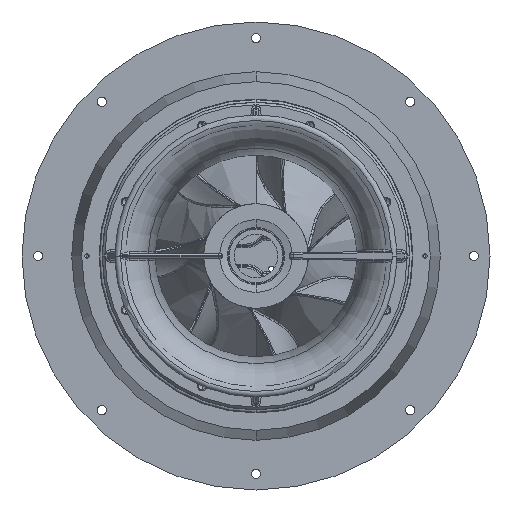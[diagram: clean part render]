
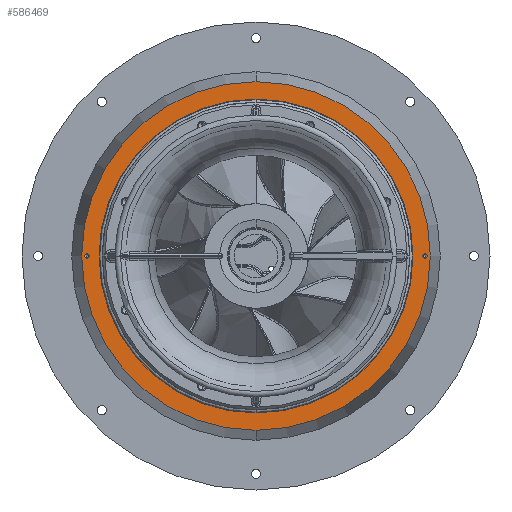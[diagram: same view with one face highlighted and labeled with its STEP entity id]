
A CAD part, front view. The second image highlights one B-rep face of the part: STEP entity #586469.
In plain terms, the highlighted planar face has unit normal (0, -1, 0).
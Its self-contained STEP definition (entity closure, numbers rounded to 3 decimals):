
#4207 = ORIENTED_EDGE ( 'NONE', *, *, #364278, .F. ) ;
#10617 = VERTEX_POINT ( 'NONE', #159507 ) ;
#12098 = DIRECTION ( 'NONE',  ( 0., 0., -1. ) ) ;
#13412 = DIRECTION ( 'NONE',  ( 0., -1., 0. ) ) ;
#22940 = DIRECTION ( 'NONE',  ( 0., -1., 0. ) ) ;
#28683 = CARTESIAN_POINT ( 'NONE',  ( 0., -608.968, 0. ) ) ;
#36605 = EDGE_CURVE ( 'NONE', #10617, #354514, #103955, .T. ) ;
#43326 = DIRECTION ( 'NONE',  ( 0., -1., 0. ) ) ;
#44581 = CIRCLE ( 'NONE', #398555, 4.25 ) ;
#70244 = FACE_OUTER_BOUND ( 'NONE', #85524, .T. ) ;
#77613 = ORIENTED_EDGE ( 'NONE', *, *, #297839, .F. ) ;
#85524 = EDGE_LOOP ( 'NONE', ( #322835, #241527 ) ) ;
#103955 = CIRCLE ( 'NONE', #552230, 340. ) ;
#109578 = VERTEX_POINT ( 'NONE', #313102 ) ;
#117195 = CIRCLE ( 'NONE', #544464, 305. ) ;
#117275 = VERTEX_POINT ( 'NONE', #140082 ) ;
#118617 = DIRECTION ( 'NONE',  ( 0., -1., 0. ) ) ;
#122956 = CARTESIAN_POINT ( 'NONE',  ( -330., -608.968, 4.25 ) ) ;
#140082 = CARTESIAN_POINT ( 'NONE',  ( -330., -608.968, -4.25 ) ) ;
#156635 = EDGE_CURVE ( 'NONE', #117275, #170798, #391626, .T. ) ;
#159507 = CARTESIAN_POINT ( 'NONE',  ( 0., -608.968, -340. ) ) ;
#169122 = CARTESIAN_POINT ( 'NONE',  ( 305., -608.968, 0. ) ) ;
#169623 = DIRECTION ( 'NONE',  ( 0., 0., -1. ) ) ;
#170798 = VERTEX_POINT ( 'NONE', #122956 ) ;
#177812 = DIRECTION ( 'NONE',  ( 0., 0., -1. ) ) ;
#177946 = CARTESIAN_POINT ( 'NONE',  ( 0., -608.968, 0. ) ) ;
#180740 = FACE_BOUND ( 'NONE', #307485, .T. ) ;
#189286 = AXIS2_PLACEMENT_3D ( 'NONE', #371043, #118617, #169623 ) ;
#200719 = AXIS2_PLACEMENT_3D ( 'NONE', #633826, #22940, #177812 ) ;
#203490 = DIRECTION ( 'NONE',  ( 0., -1., 0. ) ) ;
#215686 = DIRECTION ( 'NONE',  ( 0., -1., 0. ) ) ;
#229301 = AXIS2_PLACEMENT_3D ( 'NONE', #309042, #559189, #406501 ) ;
#233932 = CARTESIAN_POINT ( 'NONE',  ( 330., -608.968, 4.25 ) ) ;
#240399 = EDGE_LOOP ( 'NONE', ( #312841, #4207 ) ) ;
#241527 = ORIENTED_EDGE ( 'NONE', *, *, #295578, .T. ) ;
#254408 = DIRECTION ( 'NONE',  ( 0., 0., -1. ) ) ;
#260170 = VERTEX_POINT ( 'NONE', #233932 ) ;
#260931 = CARTESIAN_POINT ( 'NONE',  ( 0., -608.968, 305. ) ) ;
#283163 = DIRECTION ( 'NONE',  ( 0., 0., -1. ) ) ;
#292368 = CARTESIAN_POINT ( 'NONE',  ( 0., -608.968, 340. ) ) ;
#295578 = EDGE_CURVE ( 'NONE', #354514, #10617, #462995, .T. ) ;
#297839 = EDGE_CURVE ( 'NONE', #170798, #117275, #343129, .T. ) ;
#299947 = DIRECTION ( 'NONE',  ( 0., 0., -1. ) ) ;
#307485 = EDGE_LOOP ( 'NONE', ( #365979, #580965 ) ) ;
#309042 = CARTESIAN_POINT ( 'NONE',  ( 0., -608.968, 0. ) ) ;
#309987 = EDGE_LOOP ( 'NONE', ( #589175, #77613 ) ) ;
#312841 = ORIENTED_EDGE ( 'NONE', *, *, #344032, .F. ) ;
#313102 = CARTESIAN_POINT ( 'NONE',  ( 0., -608.968, -305. ) ) ;
#315284 = FACE_BOUND ( 'NONE', #240399, .T. ) ;
#315442 = AXIS2_PLACEMENT_3D ( 'NONE', #547919, #43326, #299947 ) ;
#318363 = CIRCLE ( 'NONE', #229301, 305. ) ;
#322835 = ORIENTED_EDGE ( 'NONE', *, *, #36605, .T. ) ;
#343129 = CIRCLE ( 'NONE', #189286, 4.25 ) ;
#344032 = EDGE_CURVE ( 'NONE', #593949, #260170, #44581, .T. ) ;
#354514 = VERTEX_POINT ( 'NONE', #292368 ) ;
#364014 = PLANE ( 'NONE',  #390851 ) ;
#364278 = EDGE_CURVE ( 'NONE', #260170, #593949, #554294, .T. ) ;
#365979 = ORIENTED_EDGE ( 'NONE', *, *, #561983, .F. ) ;
#371043 = CARTESIAN_POINT ( 'NONE',  ( -330., -608.968, 0. ) ) ;
#390851 = AXIS2_PLACEMENT_3D ( 'NONE', #169122, #215686, #12098 ) ;
#391626 = CIRCLE ( 'NONE', #315442, 4.25 ) ;
#398555 = AXIS2_PLACEMENT_3D ( 'NONE', #506668, #203490, #254408 ) ;
#406501 = DIRECTION ( 'NONE',  ( 0., 0., -1. ) ) ;
#420577 = DIRECTION ( 'NONE',  ( 0., 0., -1. ) ) ;
#428071 = DIRECTION ( 'NONE',  ( 0., -1., 0. ) ) ;
#434118 = FACE_BOUND ( 'NONE', #309987, .T. ) ;
#451322 = VERTEX_POINT ( 'NONE', #260931 ) ;
#462995 = CIRCLE ( 'NONE', #527688, 340. ) ;
#483356 = DIRECTION ( 'NONE',  ( 0., 0., -1. ) ) ;
#506668 = CARTESIAN_POINT ( 'NONE',  ( 330., -608.968, 0. ) ) ;
#527688 = AXIS2_PLACEMENT_3D ( 'NONE', #177946, #428071, #483356 ) ;
#528950 = CARTESIAN_POINT ( 'NONE',  ( 0., -608.968, 0. ) ) ;
#544464 = AXIS2_PLACEMENT_3D ( 'NONE', #28683, #586405, #283163 ) ;
#547919 = CARTESIAN_POINT ( 'NONE',  ( -330., -608.968, 0. ) ) ;
#552230 = AXIS2_PLACEMENT_3D ( 'NONE', #528950, #13412, #420577 ) ;
#552360 = EDGE_CURVE ( 'NONE', #451322, #109578, #117195, .T. ) ;
#554294 = CIRCLE ( 'NONE', #200719, 4.25 ) ;
#559189 = DIRECTION ( 'NONE',  ( 0., -1., 0. ) ) ;
#561983 = EDGE_CURVE ( 'NONE', #109578, #451322, #318363, .T. ) ;
#580965 = ORIENTED_EDGE ( 'NONE', *, *, #552360, .F. ) ;
#586405 = DIRECTION ( 'NONE',  ( 0., -1., 0. ) ) ;
#586469 = ADVANCED_FACE ( 'NONE', ( #315284, #434118, #70244, #180740 ), #364014, .T. ) ;
#589175 = ORIENTED_EDGE ( 'NONE', *, *, #156635, .F. ) ;
#593949 = VERTEX_POINT ( 'NONE', #621044 ) ;
#621044 = CARTESIAN_POINT ( 'NONE',  ( 330., -608.968, -4.25 ) ) ;
#633826 = CARTESIAN_POINT ( 'NONE',  ( 330., -608.968, 0. ) ) ;
